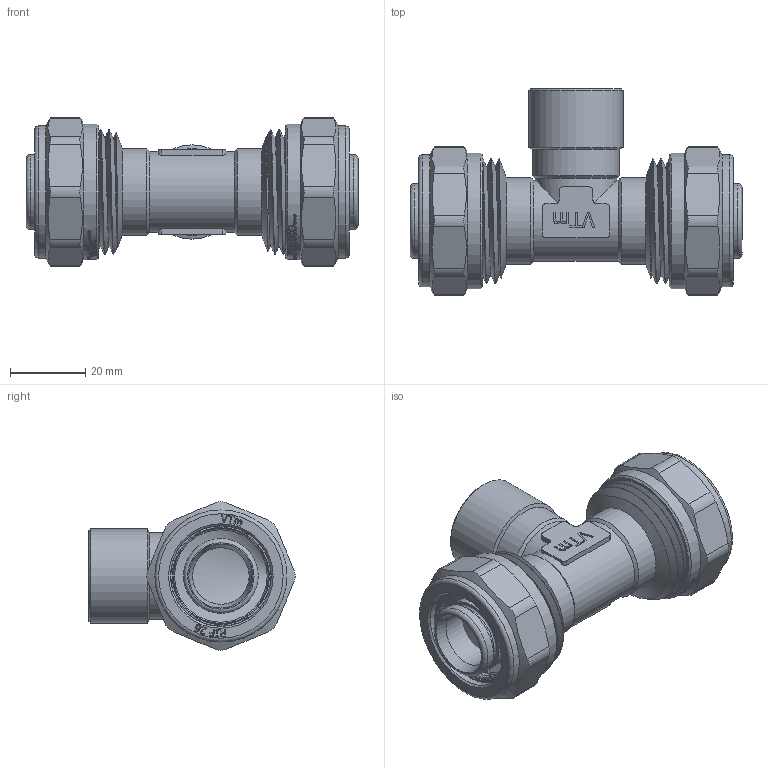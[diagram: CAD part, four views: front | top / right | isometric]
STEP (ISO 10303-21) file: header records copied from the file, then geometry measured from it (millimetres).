
FILE_DESCRIPTION(/* description */ (''),/* implementation_level */ '2;1');
FILE_NAME(/* name */ 'E:\Артём\00000\Работа удаленка\Обжимные фитинги\VTm.332.N.260426.stp',/* time_stamp */ '2020-07-08T13:59:57+03:00',/* author */ ('BeN_GaN'),/* organization */ (''),/* preprocessor_version */ 'ST-DEVELOPER v18',/* originating_system */ 'Autodesk Inventor 2020',/* authorisation */ '');
FILE_SCHEMA (('AUTOMOTIVE_DESIGN { 1 0 10303 214 3 1 1 }'));
Length unit declared in the file: millimetre
Products named in the file (1): VTm.332.N.260526
Bounding box: 88 x 54.69 x 39.39 mm (x, y, z)
Volume: 40941.3 mm3; surface area: 33696.5 mm2
Topology: 3 solids, 3 shells, 1437 faces, 4090 edges, 2767 vertices
Faces by surface type: bspline 768, plane 395, cylinder 189, torus 48, cone 37
Full cylindrical faces by diameter (mm): 15 x1, 17 x1, 17.4 x4, 18.6 x6, 19.8 x10, 21.5 x2, 22.2 x7, 23 x3, 24.516 x8, 25 x1, 25.435 x10, 26.2 x2, 26.7 x2, 28.5 x2, 28.7 x8, 30.5 x4, 33.3 x2, 35 x2, 36 x2
Entity records: 64465 total; most frequent: CARTESIAN_POINT 32022, ORIENTED_EDGE 8182, DIRECTION 4290, EDGE_CURVE 4091, VERTEX_POINT 2768, LINE 1738, VECTOR 1738, B_SPLINE_CURVE_WITH_KNOTS 1715
